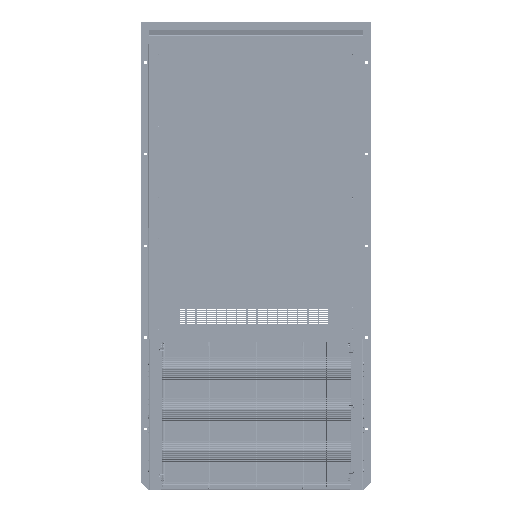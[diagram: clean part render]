
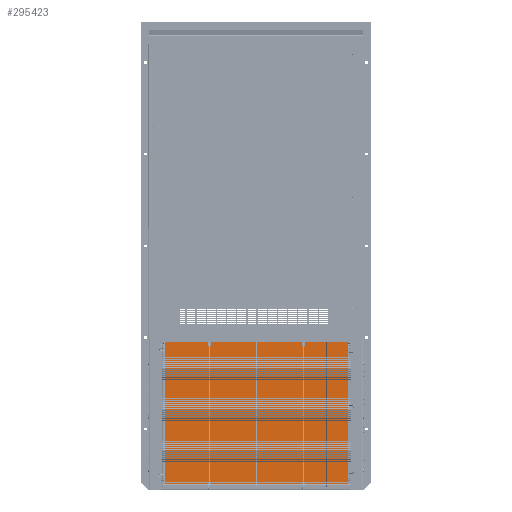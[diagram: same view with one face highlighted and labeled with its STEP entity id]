
A CAD part, top view. The second image highlights one B-rep face of the part: STEP entity #295423.
In plain terms, the highlighted planar face has unit normal (0, 0, 1) as drawn and (0, 0, -1) by its records, which use the part's own axes.
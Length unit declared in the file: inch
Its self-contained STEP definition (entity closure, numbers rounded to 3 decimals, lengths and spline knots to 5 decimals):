
#7791 = CARTESIAN_POINT ( 'NONE',  ( 0., -36., -1.8 ) ) ;
#15877 = ORIENTED_EDGE ( 'NONE', *, *, #312671, .F. ) ;
#19818 = CARTESIAN_POINT ( 'NONE',  ( 0., 0., -1.8 ) ) ;
#20648 = LINE ( 'NONE', #192673, #289717 ) ;
#45233 = AXIS2_PLACEMENT_3D ( 'NONE', #115670, #324131, #168052 ) ;
#71083 = VERTEX_POINT ( 'NONE', #114908 ) ;
#77147 = DIRECTION ( 'NONE',  ( 0., 1., 0. ) ) ;
#93459 = ORIENTED_EDGE ( 'NONE', *, *, #144241, .F. ) ;
#101291 = VECTOR ( 'NONE', #77147, 39.37008 ) ;
#102171 = CARTESIAN_POINT ( 'NONE',  ( 28.5, -18., -1.8 ) ) ;
#104106 = VERTEX_POINT ( 'NONE', #7791 ) ;
#114908 = CARTESIAN_POINT ( 'NONE',  ( 28.5, 0., -1.8 ) ) ;
#115670 = CARTESIAN_POINT ( 'NONE',  ( 28.5, -18., -1.8 ) ) ;
#117194 = LINE ( 'NONE', #212924, #247595 ) ;
#144241 = EDGE_CURVE ( 'NONE', #104106, #307942, #20648, .T. ) ;
#150524 = DIRECTION ( 'NONE',  ( 0., -1., 0. ) ) ;
#159690 = ORIENTED_EDGE ( 'NONE', *, *, #180137, .F. ) ;
#160583 = DIRECTION ( 'NONE',  ( -1., 0., 0. ) ) ;
#166319 = LINE ( 'NONE', #332809, #227388 ) ;
#166920 = PLANE ( 'NONE',  #45233 ) ;
#168052 = DIRECTION ( 'NONE',  ( 1., 0., 0. ) ) ;
#168690 = DIRECTION ( 'NONE',  ( 1., 0., 0. ) ) ;
#170444 = LINE ( 'NONE', #102171, #101291 ) ;
#171120 = CARTESIAN_POINT ( 'NONE',  ( 28.5, -36., -1.8 ) ) ;
#180137 = EDGE_CURVE ( 'NONE', #71083, #336811, #117194, .T. ) ;
#192673 = CARTESIAN_POINT ( 'NONE',  ( 28.5, -36., -1.8 ) ) ;
#193689 = FACE_OUTER_BOUND ( 'NONE', #330285, .T. ) ;
#212924 = CARTESIAN_POINT ( 'NONE',  ( 28.5, 0., -1.8 ) ) ;
#219513 = EDGE_CURVE ( 'NONE', #336811, #104106, #166319, .T. ) ;
#227388 = VECTOR ( 'NONE', #150524, 39.37008 ) ;
#234341 = ORIENTED_EDGE ( 'NONE', *, *, #219513, .F. ) ;
#247595 = VECTOR ( 'NONE', #160583, 39.37008 ) ;
#289717 = VECTOR ( 'NONE', #168690, 39.37008 ) ;
#295423 = ADVANCED_FACE ( 'NONE', ( #193689 ), #166920, .F. ) ;
#307942 = VERTEX_POINT ( 'NONE', #171120 ) ;
#312671 = EDGE_CURVE ( 'NONE', #307942, #71083, #170444, .T. ) ;
#324131 = DIRECTION ( 'NONE',  ( 0., 0., 1. ) ) ;
#330285 = EDGE_LOOP ( 'NONE', ( #159690, #15877, #93459, #234341 ) ) ;
#332809 = CARTESIAN_POINT ( 'NONE',  ( 0., -18., -1.8 ) ) ;
#336811 = VERTEX_POINT ( 'NONE', #19818 ) ;
